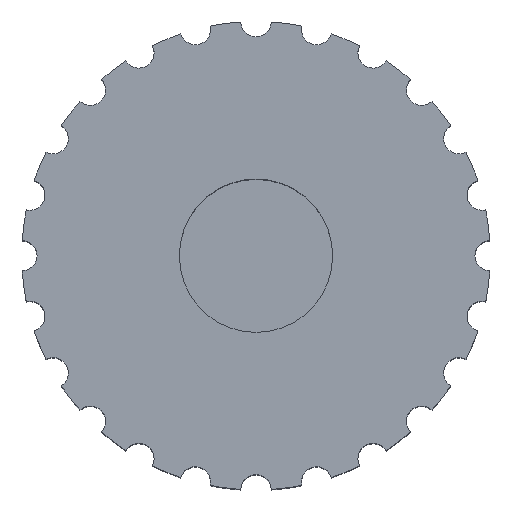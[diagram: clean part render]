
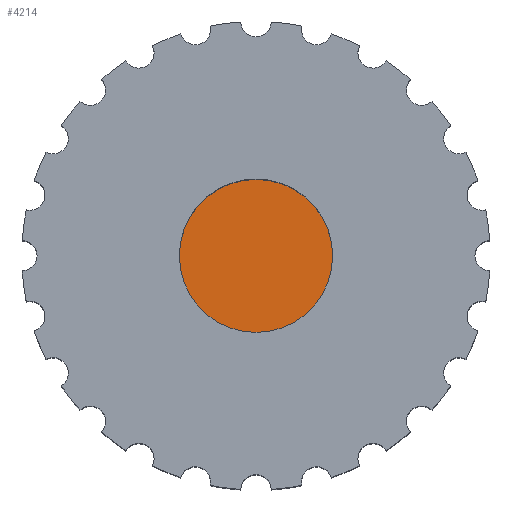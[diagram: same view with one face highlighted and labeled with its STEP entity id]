
A CAD part, top view. The second image highlights one B-rep face of the part: STEP entity #4214.
In plain terms, the highlighted planar face has unit normal (0, 0, 1).
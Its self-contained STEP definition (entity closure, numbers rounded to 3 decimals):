
#1554 = CYLINDRICAL_SURFACE('',#1555,3.275);
#1555 = AXIS2_PLACEMENT_3D('',#1556,#1557,#1558);
#1556 = CARTESIAN_POINT('',(0.,0.,3.));
#1557 = DIRECTION('',(0.,0.,1.));
#1558 = DIRECTION('',(1.,0.,-0.));
#3964 = VERTEX_POINT('',#3965);
#3965 = CARTESIAN_POINT('',(3.275,0.,3.));
#3986 = EDGE_CURVE('',#3964,#3964,#3987,.T.);
#3987 = SURFACE_CURVE('',#3988,(#3993,#4000),.PCURVE_S1.);
#3988 = CIRCLE('',#3989,3.275);
#3989 = AXIS2_PLACEMENT_3D('',#3990,#3991,#3992);
#3990 = CARTESIAN_POINT('',(0.,0.,3.));
#3991 = DIRECTION('',(0.,0.,1.));
#3992 = DIRECTION('',(1.,0.,-0.));
#3993 = PCURVE('',#1554,#3994);
#3994 = DEFINITIONAL_REPRESENTATION('',(#3995),#3999);
#3995 = LINE('',#3996,#3997);
#3996 = CARTESIAN_POINT('',(0.,0.));
#3997 = VECTOR('',#3998,1.);
#3998 = DIRECTION('',(1.,0.));
#3999 = ( GEOMETRIC_REPRESENTATION_CONTEXT(2)
PARAMETRIC_REPRESENTATION_CONTEXT() REPRESENTATION_CONTEXT('2D SPACE',''
  ) );
#4000 = PCURVE('',#4001,#4006);
#4001 = PLANE('',#4002);
#4002 = AXIS2_PLACEMENT_3D('',#4003,#4004,#4005);
#4003 = CARTESIAN_POINT('',(0.,0.,3.));
#4004 = DIRECTION('',(0.,0.,1.));
#4005 = DIRECTION('',(1.,0.,-0.));
#4006 = DEFINITIONAL_REPRESENTATION('',(#4007),#4011);
#4007 = CIRCLE('',#4008,3.275);
#4008 = AXIS2_PLACEMENT_2D('',#4009,#4010);
#4009 = CARTESIAN_POINT('',(0.,0.));
#4010 = DIRECTION('',(1.,0.));
#4011 = ( GEOMETRIC_REPRESENTATION_CONTEXT(2)
PARAMETRIC_REPRESENTATION_CONTEXT() REPRESENTATION_CONTEXT('2D SPACE',''
  ) );
#4214 = ADVANCED_FACE('',(#4215),#4001,.T.);
#4215 = FACE_BOUND('',#4216,.F.);
#4216 = EDGE_LOOP('',(#4217));
#4217 = ORIENTED_EDGE('',*,*,#3986,.F.);
